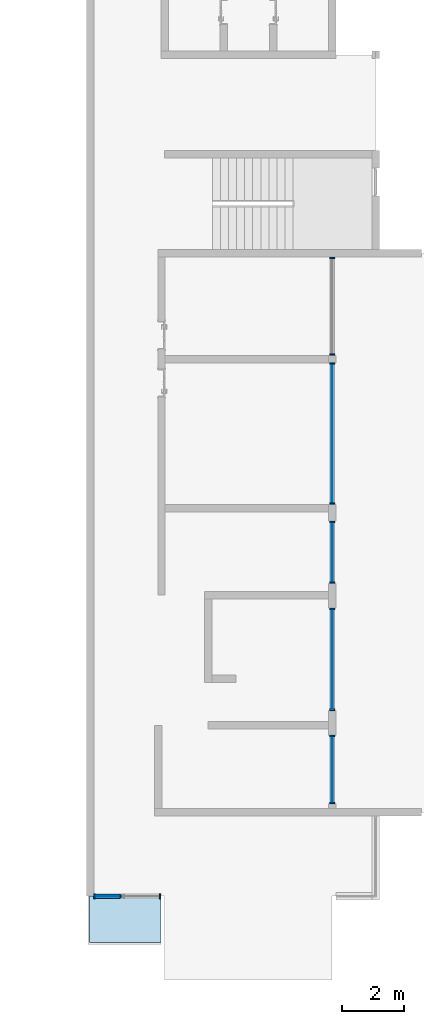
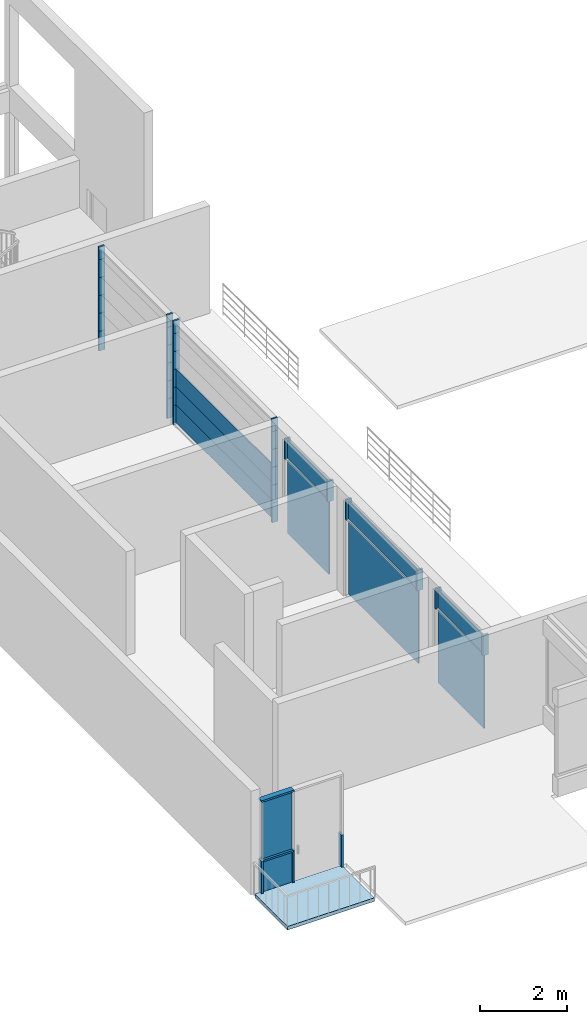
# One storey, part 3 of 16: 35 members, 11 plates, 1 slab, 6 elements without a shape of their own.
"""IFC2X3 building model written with IfcOpenShell, lengths in millimetres."""

from ifc_helpers import new_model, entity, si_unit, converted_unit, derived_unit, direction, frame, frame_2d, origin, origin_2d_with_axis, place, context, subcontext, project, spatial, rectangle, extrude, source, transform, mapped, material, layer, layer_set, layer_usage, type_object, type_shapes, element, aggregate, save


model = new_model("IFC2X3")

# Units and contexts
model_context = context("Model", 3, precision=0.01, world=origin(), true_north=direction((6.12303176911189e-17, 1.0)))
body_context = subcontext(model_context, "Body", "Model", "MODEL_VIEW")
ifc_project = project(units=[si_unit("LENGTHUNIT", "METRE", prefix="MILLI"), si_unit("AREAUNIT", "SQUARE_METRE"), si_unit("VOLUMEUNIT", "CUBIC_METRE"), converted_unit("PLANEANGLEUNIT", "DEGREE", entity("IfcRatioMeasure", 0.0174532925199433), si_unit("PLANEANGLEUNIT", "RADIAN"), dimensions=[0, 0, 0, 0, 0, 0, 0]), si_unit("MASSUNIT", "GRAM", prefix="KILO"), derived_unit("MASSDENSITYUNIT", [(si_unit("MASSUNIT", "GRAM", prefix="KILO"), 1), (si_unit("LENGTHUNIT", "METRE"), -3)]), si_unit("TIMEUNIT", "SECOND"), si_unit("FREQUENCYUNIT", "HERTZ"), si_unit("THERMODYNAMICTEMPERATUREUNIT", "DEGREE_CELSIUS"), derived_unit("THERMALTRANSMITTANCEUNIT", [(si_unit("MASSUNIT", "GRAM", prefix="KILO"), 1), (si_unit("THERMODYNAMICTEMPERATUREUNIT", "KELVIN"), -1), (si_unit("TIMEUNIT", "SECOND"), -3)]), derived_unit("VOLUMETRICFLOWRATEUNIT", [(si_unit("LENGTHUNIT", "METRE"), 3), (si_unit("TIMEUNIT", "SECOND"), -1)]), si_unit("ELECTRICCURRENTUNIT", "AMPERE"), si_unit("ELECTRICVOLTAGEUNIT", "VOLT"), si_unit("POWERUNIT", "WATT"), si_unit("FORCEUNIT", "NEWTON", prefix="KILO"), si_unit("ILLUMINANCEUNIT", "LUX"), si_unit("LUMINOUSFLUXUNIT", "LUMEN"), si_unit("LUMINOUSINTENSITYUNIT", "CANDELA"), derived_unit("USERDEFINED", [(si_unit("MASSUNIT", "GRAM", prefix="KILO"), -1), (si_unit("LENGTHUNIT", "METRE"), -2), (si_unit("TIMEUNIT", "SECOND"), 3), (si_unit("LUMINOUSFLUXUNIT", "LUMEN"), 1)]), derived_unit("LINEARVELOCITYUNIT", [(si_unit("LENGTHUNIT", "METRE"), 1), (si_unit("TIMEUNIT", "SECOND"), -1)]), si_unit("PRESSUREUNIT", "PASCAL"), derived_unit("USERDEFINED", [(si_unit("LENGTHUNIT", "METRE"), -2), (si_unit("MASSUNIT", "GRAM", prefix="KILO"), 1), (si_unit("TIMEUNIT", "SECOND"), -2)])], contexts=[model_context])

# Site, building, storey
site_placement = place(None, origin())
site = spatial("IfcSite", under=ifc_project, at=site_placement, Name="表面", CompositionType="ELEMENT")
building_placement = place(site_placement, origin())
building = spatial("IfcBuilding", under=site, at=building_placement, CompositionType="ELEMENT")
storey_placement = place(building_placement, frame((0.0, 0.0, 3000.0)))
storey = spatial("IfcBuildingStorey", under=building, at=storey_placement, Name="2F", CompositionType="ELEMENT", Elevation=3000.00000000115)

# Curtain wall, member
curtain_wall_type_1 = type_object("IfcCurtainWallType", Name="幕墙:幕墙 1", PredefinedType="NOTDEFINED")
curtain_wall_1_placement = place(storey_placement, frame((0.0, 0.0, -3000.0)))
curtain_wall_1 = element("IfcCurtainWall", 1, at=curtain_wall_1_placement, inside=storey, type_object=curtain_wall_type_1, Name="幕墙:幕墙 1", ObjectType="幕墙:幕墙 1")
ifc_material_1 = material(Name="金属 - 铝")
member_type_1 = type_object("IfcMemberType", Name="50 x 150mm", PredefinedType="MEMBER")
shared_shape_1 = source(origin(), body_context, "Body", "SweptSolid", [
    extrude(rectangle(XDim=150.0, YDim=50.0, at=origin_2d_with_axis()), frame((-25.0, 0.0, -550.0), z_axis=(0.0, 0.0, 1.0), x_axis=(0.0, -1.0, 0.0)), (0.0, 0.0, 1.0), 550.0),
])
type_shapes(member_type_1, [shared_shape_1])
member_1_placement = place(storey_placement, frame((-6630.24991264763, -11996.868426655, 0.0), z_axis=(0.0, 0.0, -1.0), x_axis=(0.0, -1.0, 0.0)))
member_1 = element("IfcMember", 2, at=member_1_placement, type_object=member_type_1, material=ifc_material_1, Name="矩形竖梃:50 x 150mm", ObjectType="50 x 150mm", context=body_context, shape_type="MappedRepresentation", body=[
    mapped(shared_shape_1, transform((0.0, 0.0, 0.0), scale=1.0)),
])

curtain_wall_2_placement = place(storey_placement, frame((0.0, 0.0, -3000.0)))
curtain_wall_2 = element("IfcCurtainWall", 3, at=curtain_wall_2_placement, inside=storey, type_object=curtain_wall_type_1, Name="幕墙:幕墙 1", ObjectType="幕墙:幕墙 1")
member_2_placement = place(storey_placement, frame((-6630.24991264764, -16796.868426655, 0.0), z_axis=(0.0, 0.0, -1.0), x_axis=(0.0, -1.0, 0.0)))
member_2 = element("IfcMember", 4, at=member_2_placement, type_object=member_type_1, material=ifc_material_1, Name="矩形竖梃:50 x 150mm", ObjectType="50 x 150mm", context=body_context, shape_type="MappedRepresentation", body=[
    mapped(shared_shape_1, transform((0.0, 0.0, 0.0), scale=1.0)),
])

# Member
member_type_2 = type_object("IfcMemberType", Name="50 x 150mm", PredefinedType="MEMBER")
shared_shape_2 = source(origin(), body_context, "Body", "SweptSolid", [
    extrude(rectangle(XDim=150.0, YDim=50.0, at=origin_2d_with_axis()), frame((-25.0, 0.0, -500.0), z_axis=(0.0, 0.0, 1.0), x_axis=(0.0, -1.0, 0.0)), (0.0, 0.0, 1.0), 500.0),
])
type_shapes(member_type_2, [shared_shape_2])
member_3_placement = place(storey_placement, frame((-6630.24991264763, -11996.868426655, 550.0), z_axis=(0.0, 0.0, -1.0), x_axis=(0.0, -1.0, 0.0)))
member_3 = element("IfcMember", 5, at=member_3_placement, type_object=member_type_2, material=ifc_material_1, Name="矩形竖梃:50 x 150mm", ObjectType="50 x 150mm", context=body_context, shape_type="MappedRepresentation", body=[
    mapped(shared_shape_2, transform((0.0, 0.0, 0.0), scale=1.0)),
])

member_4_placement = place(storey_placement, frame((-6630.24991264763, -11996.868426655, 1050.0), z_axis=(0.0, 0.0, -1.0), x_axis=(0.0, -1.0, 0.0)))
member_4 = element("IfcMember", 6, at=member_4_placement, type_object=member_type_2, material=ifc_material_1, Name="矩形竖梃:50 x 150mm", ObjectType="50 x 150mm", context=body_context, shape_type="MappedRepresentation", body=[
    mapped(shared_shape_2, transform((0.0, 0.0, 0.0), scale=1.0)),
])

member_5_placement = place(storey_placement, frame((-6630.24991264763, -11996.868426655, 1550.0), z_axis=(0.0, 0.0, -1.0), x_axis=(0.0, -1.0, 0.0)))
member_5 = element("IfcMember", 7, at=member_5_placement, type_object=member_type_2, material=ifc_material_1, Name="矩形竖梃:50 x 150mm", ObjectType="50 x 150mm", context=body_context, shape_type="MappedRepresentation", body=[
    mapped(shared_shape_2, transform((0.0, 0.0, 0.0), scale=1.0)),
])

member_6_placement = place(storey_placement, frame((-6630.24991264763, -11996.868426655, 2050.0), z_axis=(0.0, 0.0, -1.0), x_axis=(0.0, -1.0, 0.0)))
member_6 = element("IfcMember", 8, at=member_6_placement, type_object=member_type_2, material=ifc_material_1, Name="矩形竖梃:50 x 150mm", ObjectType="50 x 150mm", context=body_context, shape_type="MappedRepresentation", body=[
    mapped(shared_shape_2, transform((0.0, 0.0, 0.0), scale=1.0)),
])

member_7_placement = place(storey_placement, frame((-6630.24991264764, -16796.868426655, 550.0), z_axis=(0.0, 0.0, -1.0), x_axis=(0.0, -1.0, 0.0)))
member_7 = element("IfcMember", 9, at=member_7_placement, type_object=member_type_2, material=ifc_material_1, Name="矩形竖梃:50 x 150mm", ObjectType="50 x 150mm", context=body_context, shape_type="MappedRepresentation", body=[
    mapped(shared_shape_2, transform((0.0, 0.0, 0.0), scale=1.0)),
])

member_8_placement = place(storey_placement, frame((-6630.24991264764, -16796.868426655, 1050.0), z_axis=(0.0, 0.0, -1.0), x_axis=(0.0, -1.0, 0.0)))
member_8 = element("IfcMember", 10, at=member_8_placement, type_object=member_type_2, material=ifc_material_1, Name="矩形竖梃:50 x 150mm", ObjectType="50 x 150mm", context=body_context, shape_type="MappedRepresentation", body=[
    mapped(shared_shape_2, transform((0.0, 0.0, 0.0), scale=1.0)),
])

member_9_placement = place(storey_placement, frame((-6630.24991264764, -16796.868426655, 1550.0), z_axis=(0.0, 0.0, -1.0), x_axis=(0.0, -1.0, 0.0)))
member_9 = element("IfcMember", 11, at=member_9_placement, type_object=member_type_2, material=ifc_material_1, Name="矩形竖梃:50 x 150mm", ObjectType="50 x 150mm", context=body_context, shape_type="MappedRepresentation", body=[
    mapped(shared_shape_2, transform((0.0, 0.0, 0.0), scale=1.0)),
])

member_10_placement = place(storey_placement, frame((-6630.24991264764, -16796.868426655, 2050.0), z_axis=(0.0, 0.0, -1.0), x_axis=(0.0, -1.0, 0.0)))
member_10 = element("IfcMember", 12, at=member_10_placement, type_object=member_type_2, material=ifc_material_1, Name="矩形竖梃:50 x 150mm", ObjectType="50 x 150mm", context=body_context, shape_type="MappedRepresentation", body=[
    mapped(shared_shape_2, transform((0.0, 0.0, 0.0), scale=1.0)),
])

member_type_3 = type_object("IfcMemberType", Name="50 x 150mm", PredefinedType="MEMBER")
shared_shape_3 = source(origin(), body_context, "Body", "SweptSolid", [
    extrude(rectangle(XDim=150.0, YDim=50.0, at=origin_2d_with_axis()), frame((-25.0, 0.0, -550.0), z_axis=(0.0, 0.0, 1.0), x_axis=(0.0, -1.0, 0.0)), (0.0, 0.0, 1.0), 550.0),
])
type_shapes(member_type_3, [shared_shape_3])
member_11_placement = place(storey_placement, frame((-6630.24991264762, -8827.84591297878, 550.0), z_axis=(0.0, 0.0, 1.0), x_axis=(0.0, 1.0, 0.0)))
member_11 = element("IfcMember", 13, at=member_11_placement, type_object=member_type_3, material=ifc_material_1, Name="矩形竖梃:50 x 150mm", ObjectType="50 x 150mm", context=body_context, shape_type="MappedRepresentation", body=[
    mapped(shared_shape_3, transform((0.0, 0.0, 0.0), scale=1.0)),
])

member_12_placement = place(storey_placement, frame((-6630.24991264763, -12236.868426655, 550.0), z_axis=(0.0, 0.0, 1.0), x_axis=(0.0, 1.0, 0.0)))
member_12 = element("IfcMember", 14, at=member_12_placement, type_object=member_type_3, material=ifc_material_1, Name="矩形竖梃:50 x 150mm", ObjectType="50 x 150mm", context=body_context, shape_type="MappedRepresentation", body=[
    mapped(shared_shape_3, transform((0.0, 0.0, 0.0), scale=1.0)),
])

member_type_4 = type_object("IfcMemberType", Name="50 x 150mm", PredefinedType="MEMBER")
shared_shape_4 = source(origin(), body_context, "Body", "SweptSolid", [
    extrude(rectangle(XDim=150.0, YDim=50.0, at=origin_2d_with_axis()), frame((-25.0, 0.0, -500.0), z_axis=(0.0, 0.0, 1.0), x_axis=(0.0, -1.0, 0.0)), (0.0, 0.0, 1.0), 500.0),
])
type_shapes(member_type_4, [shared_shape_4])
member_13_placement = place(storey_placement, frame((-6630.24991264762, -8827.84591297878, 1050.0), z_axis=(0.0, 0.0, 1.0), x_axis=(0.0, 1.0, 0.0)))
member_13 = element("IfcMember", 15, at=member_13_placement, type_object=member_type_4, material=ifc_material_1, Name="矩形竖梃:50 x 150mm", ObjectType="50 x 150mm", context=body_context, shape_type="MappedRepresentation", body=[
    mapped(shared_shape_4, transform((0.0, 0.0, 0.0), scale=1.0)),
])

member_14_placement = place(storey_placement, frame((-6630.24991264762, -8827.84591297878, 1550.0), z_axis=(0.0, 0.0, 1.0), x_axis=(0.0, 1.0, 0.0)))
member_14 = element("IfcMember", 16, at=member_14_placement, type_object=member_type_4, material=ifc_material_1, Name="矩形竖梃:50 x 150mm", ObjectType="50 x 150mm", context=body_context, shape_type="MappedRepresentation", body=[
    mapped(shared_shape_4, transform((0.0, 0.0, 0.0), scale=1.0)),
])

member_15_placement = place(storey_placement, frame((-6630.24991264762, -8827.84591297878, 2050.0), z_axis=(0.0, 0.0, 1.0), x_axis=(0.0, 1.0, 0.0)))
member_15 = element("IfcMember", 17, at=member_15_placement, type_object=member_type_4, material=ifc_material_1, Name="矩形竖梃:50 x 150mm", ObjectType="50 x 150mm", context=body_context, shape_type="MappedRepresentation", body=[
    mapped(shared_shape_4, transform((0.0, 0.0, 0.0), scale=1.0)),
])

member_16_placement = place(storey_placement, frame((-6630.24991264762, -8827.84591297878, 2550.0), z_axis=(0.0, 0.0, 1.0), x_axis=(0.0, 1.0, 0.0)))
member_16 = element("IfcMember", 18, at=member_16_placement, type_object=member_type_4, material=ifc_material_1, Name="矩形竖梃:50 x 150mm", ObjectType="50 x 150mm", context=body_context, shape_type="MappedRepresentation", body=[
    mapped(shared_shape_4, transform((0.0, 0.0, 0.0), scale=1.0)),
])

member_17_placement = place(storey_placement, frame((-6630.24991264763, -12236.868426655, 1050.0), z_axis=(0.0, 0.0, 1.0), x_axis=(0.0, 1.0, 0.0)))
member_17 = element("IfcMember", 19, at=member_17_placement, type_object=member_type_4, material=ifc_material_1, Name="矩形竖梃:50 x 150mm", ObjectType="50 x 150mm", context=body_context, shape_type="MappedRepresentation", body=[
    mapped(shared_shape_4, transform((0.0, 0.0, 0.0), scale=1.0)),
])

member_18_placement = place(storey_placement, frame((-6630.24991264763, -12236.868426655, 1550.0), z_axis=(0.0, 0.0, 1.0), x_axis=(0.0, 1.0, 0.0)))
member_18 = element("IfcMember", 20, at=member_18_placement, type_object=member_type_4, material=ifc_material_1, Name="矩形竖梃:50 x 150mm", ObjectType="50 x 150mm", context=body_context, shape_type="MappedRepresentation", body=[
    mapped(shared_shape_4, transform((0.0, 0.0, 0.0), scale=1.0)),
])

member_19_placement = place(storey_placement, frame((-6630.24991264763, -12236.868426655, 2050.0), z_axis=(0.0, 0.0, 1.0), x_axis=(0.0, 1.0, 0.0)))
member_19 = element("IfcMember", 21, at=member_19_placement, type_object=member_type_4, material=ifc_material_1, Name="矩形竖梃:50 x 150mm", ObjectType="50 x 150mm", context=body_context, shape_type="MappedRepresentation", body=[
    mapped(shared_shape_4, transform((0.0, 0.0, 0.0), scale=1.0)),
])

member_20_placement = place(storey_placement, frame((-6630.24991264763, -12236.868426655, 2550.0), z_axis=(0.0, 0.0, 1.0), x_axis=(0.0, 1.0, 0.0)))
member_20 = element("IfcMember", 22, at=member_20_placement, type_object=member_type_4, material=ifc_material_1, Name="矩形竖梃:50 x 150mm", ObjectType="50 x 150mm", context=body_context, shape_type="MappedRepresentation", body=[
    mapped(shared_shape_4, transform((0.0, 0.0, 0.0), scale=1.0)),
])

member_type_5 = type_object("IfcMemberType", Name="50 x 150mm", PredefinedType="MEMBER")
shared_shape_5 = source(origin(), body_context, "Body", "SweptSolid", [
    extrude(rectangle(XDim=150.0, YDim=50.0, at=origin_2d_with_axis()), frame((-25.0, 0.0, -350.0), z_axis=(0.0, 0.0, 1.0), x_axis=(0.0, -1.0, 0.0)), (0.0, 0.0, 1.0), 349.999999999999),
])
type_shapes(member_type_5, [shared_shape_5])
member_21_placement = place(storey_placement, frame((-6630.24991264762, -8827.84591297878, 2900.0), z_axis=(0.0, 0.0, 1.0), x_axis=(0.0, 1.0, 0.0)))
member_21 = element("IfcMember", 23, at=member_21_placement, type_object=member_type_5, material=ifc_material_1, Name="矩形竖梃:50 x 150mm", ObjectType="50 x 150mm", context=body_context, shape_type="MappedRepresentation", body=[
    mapped(shared_shape_5, transform((0.0, 0.0, 0.0), scale=1.0)),
])

member_22_placement = place(storey_placement, frame((-6630.24991264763, -12236.868426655, 2900.0), z_axis=(0.0, 0.0, 1.0), x_axis=(0.0, 1.0, 0.0)))
member_22 = element("IfcMember", 24, at=member_22_placement, type_object=member_type_5, material=ifc_material_1, Name="矩形竖梃:50 x 150mm", ObjectType="50 x 150mm", context=body_context, shape_type="MappedRepresentation", body=[
    mapped(shared_shape_5, transform((0.0, 0.0, 0.0), scale=1.0)),
])

member_type_6 = type_object("IfcMemberType", Name="50 x 150mm", PredefinedType="MEMBER")
shared_shape_6 = source(origin(), body_context, "Body", "SweptSolid", [
    extrude(rectangle(XDim=150.0, YDim=50.0, at=origin_2d_with_axis()), frame((-25.0, 0.0, -350.0), z_axis=(0.0, 0.0, 1.0), x_axis=(0.0, -1.0, 0.0)), (0.0, 0.0, 1.0), 349.999999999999),
])
type_shapes(member_type_6, [shared_shape_6])
member_23_placement = place(storey_placement, frame((-6630.24991264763, -11996.868426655, 2550.0), z_axis=(0.0, 0.0, -1.0), x_axis=(0.0, -1.0, 0.0)))
member_23 = element("IfcMember", 25, at=member_23_placement, type_object=member_type_6, material=ifc_material_1, Name="矩形竖梃:50 x 150mm", ObjectType="50 x 150mm", context=body_context, shape_type="MappedRepresentation", body=[
    mapped(shared_shape_6, transform((0.0, 0.0, 0.0), scale=1.0)),
])

aggregate(curtain_wall_1, [member_1, member_21, member_3, member_11, member_13, member_14, member_15, member_16, member_4, member_5, member_6, member_23])

member_24_placement = place(storey_placement, frame((-6630.24991264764, -16796.868426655, 2550.0), z_axis=(0.0, 0.0, -1.0), x_axis=(0.0, -1.0, 0.0)))
member_24 = element("IfcMember", 26, at=member_24_placement, type_object=member_type_6, material=ifc_material_1, Name="矩形竖梃:50 x 150mm", ObjectType="50 x 150mm", context=body_context, shape_type="MappedRepresentation", body=[
    mapped(shared_shape_6, transform((0.0, 0.0, 0.0), scale=1.0)),
])

# Curtain wall, member
curtain_wall_type_2 = type_object("IfcCurtainWallType", Name="幕墙:幕墙 4", PredefinedType="NOTDEFINED")
curtain_wall_3_placement = place(storey_placement, frame((0.0, 0.0, -3000.0)))
curtain_wall_3 = element("IfcCurtainWall", 27, at=curtain_wall_3_placement, inside=storey, type_object=curtain_wall_type_2, Name="幕墙:幕墙 4", ObjectType="幕墙:幕墙 4")
member_type_7 = type_object("IfcMemberType", Name="50 x 150mm", PredefinedType="MEMBER")
shared_shape_7 = source(origin(), body_context, "Body", "SweptSolid", [
    extrude(rectangle(XDim=150.0, YDim=50.0, at=origin_2d_with_axis()), frame((-25.0, 0.0, -575.0), z_axis=(0.0, 0.0, 1.0), x_axis=(0.0, -1.0, 0.0)), (0.0, 0.0, 1.0), 575.0),
])
type_shapes(member_type_7, [shared_shape_7])
member_25_placement = place(storey_placement, frame((-6630.24991264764, -19336.868426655, 2125.0), z_axis=(0.0, 0.0, -1.0), x_axis=(0.0, -1.0, 0.0)))
member_25 = element("IfcMember", 28, at=member_25_placement, type_object=member_type_7, material=ifc_material_1, Name="矩形竖梃:50 x 150mm", ObjectType="50 x 150mm", context=body_context, shape_type="MappedRepresentation", body=[
    mapped(shared_shape_7, transform((0.0, 0.0, 0.0), scale=1.0)),
])

curtain_wall_4_placement = place(storey_placement, frame((0.0, 0.0, -3000.0)))
curtain_wall_4 = element("IfcCurtainWall", 29, at=curtain_wall_4_placement, inside=storey, type_object=curtain_wall_type_2, Name="幕墙:幕墙 4", ObjectType="幕墙:幕墙 4")
member_26_placement = place(storey_placement, frame((-6630.24991264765, -23436.868426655, 2125.0), z_axis=(0.0, 0.0, -1.0), x_axis=(0.0, -1.0, 0.0)))
member_26 = element("IfcMember", 30, at=member_26_placement, type_object=member_type_7, material=ifc_material_1, Name="矩形竖梃:50 x 150mm", ObjectType="50 x 150mm", context=body_context, shape_type="MappedRepresentation", body=[
    mapped(shared_shape_7, transform((0.0, 0.0, 0.0), scale=1.0)),
])

curtain_wall_5_placement = place(storey_placement, frame((0.0, 0.0, -3000.0)))
curtain_wall_5 = element("IfcCurtainWall", 31, at=curtain_wall_5_placement, inside=storey, type_object=curtain_wall_type_2, Name="幕墙:幕墙 4", ObjectType="幕墙:幕墙 4")
member_27_placement = place(storey_placement, frame((-6630.24991264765, -26436.868426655, 2125.0), z_axis=(0.0, 0.0, -1.0), x_axis=(0.0, -1.0, 0.0)))
member_27 = element("IfcMember", 32, at=member_27_placement, type_object=member_type_7, material=ifc_material_1, Name="矩形竖梃:50 x 150mm", ObjectType="50 x 150mm", context=body_context, shape_type="MappedRepresentation", body=[
    mapped(shared_shape_7, transform((0.0, 0.0, 0.0), scale=1.0)),
])

# Member
member_type_8 = type_object("IfcMemberType", Name="50 x 150mm", PredefinedType="MEMBER")
shared_shape_8 = source(origin(), body_context, "Body", "SweptSolid", [
    extrude(rectangle(XDim=150.0, YDim=50.0, at=origin_2d_with_axis()), frame((-25.0, 0.0, -575.0), z_axis=(0.0, 0.0, 1.0), x_axis=(0.0, -1.0, 0.0)), (0.0, 0.0, 1.0), 575.0),
])
type_shapes(member_type_8, [shared_shape_8])
member_28_placement = place(storey_placement, frame((-6630.24991264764, -17336.868426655, 2700.0), z_axis=(0.0, 0.0, 1.0), x_axis=(0.0, 1.0, 0.0)))
member_28 = element("IfcMember", 33, at=member_28_placement, type_object=member_type_8, material=ifc_material_1, Name="矩形竖梃:50 x 150mm", ObjectType="50 x 150mm", context=body_context, shape_type="MappedRepresentation", body=[
    mapped(shared_shape_8, transform((0.0, 0.0, 0.0), scale=1.0)),
])

member_29_placement = place(storey_placement, frame((-6630.24991264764, -20136.868426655, 2700.0), z_axis=(0.0, 0.0, 1.0), x_axis=(0.0, 1.0, 0.0)))
member_29 = element("IfcMember", 34, at=member_29_placement, type_object=member_type_8, material=ifc_material_1, Name="矩形竖梃:50 x 150mm", ObjectType="50 x 150mm", context=body_context, shape_type="MappedRepresentation", body=[
    mapped(shared_shape_8, transform((0.0, 0.0, 0.0), scale=1.0)),
])

member_30_placement = place(storey_placement, frame((-6630.24991264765, -24236.868426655, 2700.0), z_axis=(0.0, 0.0, 1.0), x_axis=(0.0, 1.0, 0.0)))
member_30 = element("IfcMember", 35, at=member_30_placement, type_object=member_type_8, material=ifc_material_1, Name="矩形竖梃:50 x 150mm", ObjectType="50 x 150mm", context=body_context, shape_type="MappedRepresentation", body=[
    mapped(shared_shape_8, transform((0.0, 0.0, 0.0), scale=1.0)),
])

# Curtain wall, members
curtain_wall_type_3 = type_object("IfcCurtainWallType", Name="幕墙:幕墙 2", PredefinedType="NOTDEFINED")
curtain_wall_6_placement = place(storey_placement, frame((0.0, 0.0, -3000.0)))
curtain_wall_6 = element("IfcCurtainWall", 36, at=curtain_wall_6_placement, inside=storey, type_object=curtain_wall_type_3, Name="幕墙:幕墙 2", ObjectType="幕墙:幕墙 2")
member_type_9 = type_object("IfcMemberType", Name="50 x 150mm", PredefinedType="MEMBER")
shared_shape_9 = source(origin(), body_context, "Body", "SweptSolid", [
    extrude(rectangle(XDim=150.0, YDim=50.0, at=origin_2d_with_axis()), frame((-25.0, 0.0, -900.0), z_axis=(0.0, 0.0, 1.0), x_axis=(0.0, -1.0, 0.0)), (0.0, 0.0, 1.0), 900.0),
])
type_shapes(member_type_9, [shared_shape_9])
member_31_placement = place(storey_placement, frame((-12150.2499126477, -29416.868426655, 0.0), z_axis=(0.0, 0.0, -1.0), x_axis=(1.0, 0.0, 0.0)))
member_31 = element("IfcMember", 37, at=member_31_placement, type_object=member_type_9, material=ifc_material_1, Name="矩形竖梃:50 x 150mm", ObjectType="50 x 150mm", context=body_context, shape_type="MappedRepresentation", body=[
    mapped(shared_shape_9, transform((0.0, 0.0, 0.0), scale=1.0)),
])
member_type_10 = type_object("IfcMemberType", Name="50 x 150mm", PredefinedType="MEMBER")
shared_shape_10 = source(origin(), body_context, "Body", "SweptSolid", [
    extrude(rectangle(XDim=150.0, YDim=50.0, at=origin_2d_with_axis()), frame((-25.0, 0.0, -860.0), z_axis=(0.0, 0.0, 1.0), x_axis=(0.0, -1.0, 0.0)), (0.0, 0.0, 1.0), 859.999999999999),
])
type_shapes(member_type_10, [shared_shape_10])
member_32_placement = place(storey_placement, frame((-13450.2499126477, -29416.868426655, 2600.0), z_axis=(1.0, 0.0, 0.0), x_axis=(0.0, 0.0, 1.0)))
member_32 = element("IfcMember", 38, at=member_32_placement, type_object=member_type_10, material=ifc_material_1, Name="矩形竖梃:50 x 150mm", ObjectType="50 x 150mm", context=body_context, shape_type="MappedRepresentation", body=[
    mapped(shared_shape_10, transform((0.0, 0.0, 0.0), scale=1.0)),
])
member_type_11 = type_object("IfcMemberType", Name="50 x 100mm", PredefinedType="MEMBER")
shared_shape_11 = source(origin(), body_context, "Body", "SweptSolid", [
    extrude(rectangle(XDim=100.0, YDim=50.0, at=origin_2d_with_axis()), frame((0.0, 0.0, -900.0), z_axis=(0.0, 0.0, 1.0), x_axis=(0.0, -1.0, 0.0)), (0.0, 0.0, 1.0), 900.0),
])
type_shapes(member_type_11, [shared_shape_11])
member_33_placement = place(storey_placement, frame((-13450.2499126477, -29416.868426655, 0.0), z_axis=(0.0, 0.0, -1.0), x_axis=(1.0, 0.0, 0.0)))
member_33 = element("IfcMember", 39, at=member_33_placement, type_object=member_type_11, material=ifc_material_1, Name="矩形竖梃:50 x 100mm", ObjectType="50 x 100mm", context=body_context, shape_type="MappedRepresentation", body=[
    mapped(shared_shape_11, transform((0.0, 0.0, 0.0), scale=1.0)),
])
member_type_12 = type_object("IfcMemberType", Name="50 x 150mm", PredefinedType="MEMBER")
shared_shape_12 = source(origin(), body_context, "Body", "SweptSolid", [
    extrude(rectangle(XDim=150.0, YDim=50.0, at=origin_2d_with_axis()), frame((-25.0, 0.0, -900.0), z_axis=(0.0, 0.0, 1.0), x_axis=(0.0, -1.0, 0.0)), (0.0, 0.0, 1.0), 900.0),
])
type_shapes(member_type_12, [shared_shape_12])
member_34_placement = place(storey_placement, frame((-14310.2499126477, -29416.868426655, 900.0), z_axis=(0.0, 0.0, 1.0), x_axis=(-1.0, 0.0, 0.0)))
member_34 = element("IfcMember", 40, at=member_34_placement, type_object=member_type_12, material=ifc_material_1, Name="矩形竖梃:50 x 150mm", ObjectType="50 x 150mm", context=body_context, shape_type="MappedRepresentation", body=[
    mapped(shared_shape_12, transform((0.0, 0.0, 0.0), scale=1.0)),
])
member_type_13 = type_object("IfcMemberType", Name="50 x 150mm", PredefinedType="MEMBER")
shared_shape_13 = source(origin(), body_context, "Body", "SweptSolid", [
    extrude(rectangle(XDim=150.0, YDim=50.0, at=origin_2d_with_axis()), frame((0.0, 0.0, -785.0), z_axis=(0.0, 0.0, 1.0), x_axis=(0.0, -1.0, 0.0)), (0.0, 0.0, 1.0), 784.999999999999),
])
type_shapes(member_type_13, [shared_shape_13])
member_35_placement = place(storey_placement, frame((-13475.2499126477, -29416.868426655, 900.0), z_axis=(1.0, 0.0, 0.0), x_axis=(0.0, 0.0, 1.0)))
member_35 = element("IfcMember", 41, at=member_35_placement, type_object=member_type_13, material=ifc_material_1, Name="矩形竖梃:50 x 150mm", ObjectType="50 x 150mm", context=body_context, shape_type="MappedRepresentation", body=[
    mapped(shared_shape_13, transform((0.0, 0.0, 0.0), scale=1.0)),
])

# Plate
ifc_material_2 = material(Name="<Unnamed>")
ifc_layer_1 = layer(ifc_material_2, 30.0)
ifc_layer_set_1 = layer_set([ifc_layer_1], Name="幕墙系统:1450 x 2100mm")
ifc_layer_usage_1 = layer_usage(ifc_layer_set_1, "AXIS3", "POSITIVE", 0.0)
plate_type_1 = type_object("IfcPlateType", Name="玻璃", PredefinedType="CURTAIN_PANEL", material=ifc_layer_set_1)
shared_shape_14 = source(origin(), body_context, "Body", "SweptSolid", [
    extrude(rectangle(XDim=30.0, YDim=4460.0, at=origin_2d_with_axis()), frame((0.0, 0.0, 0.0), z_axis=(0.0, 0.0, 1.0), x_axis=(0.0, 1.0, 0.0)), (0.0, 0.0, 1.0), 500.0),
])
type_shapes(plate_type_1, [shared_shape_14])
plate_1_placement = place(curtain_wall_2_placement, frame((-6630.24991264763, -14516.868426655, 3050.0), z_axis=(0.0, 0.0, 1.0), x_axis=(0.0, -1.0, 0.0)))
plate_1 = element("IfcPlate", 42, at=plate_1_placement, type_object=plate_type_1, material=ifc_layer_usage_1, Name="系统嵌板:玻璃", ObjectType="玻璃", context=body_context, shape_type="MappedRepresentation", body=[
    mapped(shared_shape_14, transform((0.0, 0.0, 0.0), scale=1.0)),
])

ifc_layer_usage_2 = layer_usage(ifc_layer_set_1, "AXIS3", "POSITIVE", 0.0)
plate_2_placement = place(curtain_wall_2_placement, frame((-6630.24991264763, -14516.868426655, 3550.0), z_axis=(0.0, 0.0, 1.0), x_axis=(0.0, -1.0, 0.0)))
plate_2 = element("IfcPlate", 43, at=plate_2_placement, type_object=plate_type_1, material=ifc_layer_usage_2, Name="系统嵌板:玻璃", ObjectType="玻璃", context=body_context, shape_type="MappedRepresentation", body=[
    mapped(shared_shape_14, transform((0.0, 0.0, 0.0), scale=1.0)),
])

ifc_layer_usage_3 = layer_usage(ifc_layer_set_1, "AXIS3", "POSITIVE", 0.0)
plate_3_placement = place(curtain_wall_2_placement, frame((-6630.24991264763, -14516.868426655, 4050.0), z_axis=(0.0, 0.0, 1.0), x_axis=(0.0, -1.0, 0.0)))
plate_3 = element("IfcPlate", 44, at=plate_3_placement, type_object=plate_type_1, material=ifc_layer_usage_3, Name="系统嵌板:玻璃", ObjectType="玻璃", context=body_context, shape_type="MappedRepresentation", body=[
    mapped(shared_shape_14, transform((0.0, 0.0, 0.0), scale=1.0)),
])

aggregate(curtain_wall_2, [plate_1, plate_2, plate_3, member_2, member_22, member_7, member_12, member_17, member_18, member_19, member_20, member_8, member_9, member_10, member_24])

ifc_layer_usage_4 = layer_usage(ifc_layer_set_1, "AXIS3", "POSITIVE", 0.0)
plate_type_2 = type_object("IfcPlateType", Name="玻璃", PredefinedType="CURTAIN_PANEL", material=ifc_layer_set_1)
shared_shape_15 = source(origin(), body_context, "Body", "SweptSolid", [
    extrude(rectangle(XDim=30.0, YDim=1900.0, at=origin_2d_with_axis()), frame((0.0, 0.0, 0.0), z_axis=(0.0, 0.0, 1.0), x_axis=(0.0, 1.0, 0.0)), (0.0, 0.0, 1.0), 2050.0),
])
type_shapes(plate_type_2, [shared_shape_15])
plate_4_placement = place(curtain_wall_3_placement, frame((-6630.24991264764, -18336.868426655, 3050.0), z_axis=(0.0, 0.0, 1.0), x_axis=(0.0, -1.0, 0.0)))
plate_4 = element("IfcPlate", 45, at=plate_4_placement, type_object=plate_type_2, material=ifc_layer_usage_4, Name="系统嵌板:玻璃", ObjectType="玻璃", context=body_context, shape_type="MappedRepresentation", body=[
    mapped(shared_shape_15, transform((0.0, 0.0, 0.0), scale=1.0)),
])

ifc_layer_usage_5 = layer_usage(ifc_layer_set_1, "AXIS3", "POSITIVE", 0.0)
plate_type_3 = type_object("IfcPlateType", Name="玻璃", PredefinedType="CURTAIN_PANEL", material=ifc_layer_set_1)
shared_shape_16 = source(origin(), body_context, "Body", "SweptSolid", [
    extrude(rectangle(XDim=30.0, YDim=1900.0, at=origin_2d_with_axis()), frame((0.0, 0.0, 0.0), z_axis=(0.0, 0.0, 1.0), x_axis=(0.0, 1.0, 0.0)), (0.0, 0.0, 1.0), 500.0),
])
type_shapes(plate_type_3, [shared_shape_16])
plate_5_placement = place(curtain_wall_3_placement, frame((-6630.24991264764, -18336.868426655, 5150.0), z_axis=(0.0, 0.0, 1.0), x_axis=(0.0, -1.0, 0.0)))
plate_5 = element("IfcPlate", 46, at=plate_5_placement, type_object=plate_type_3, material=ifc_layer_usage_5, Name="系统嵌板:玻璃", ObjectType="玻璃", context=body_context, shape_type="MappedRepresentation", body=[
    mapped(shared_shape_16, transform((0.0, 0.0, 0.0), scale=1.0)),
])

aggregate(curtain_wall_3, [plate_4, plate_5, member_25, member_28])

ifc_layer_usage_6 = layer_usage(ifc_layer_set_1, "AXIS3", "POSITIVE", 0.0)
plate_type_4 = type_object("IfcPlateType", Name="玻璃", PredefinedType="CURTAIN_PANEL", material=ifc_layer_set_1)
shared_shape_17 = source(origin(), body_context, "Body", "SweptSolid", [
    extrude(rectangle(XDim=30.0, YDim=3200.0, at=origin_2d_with_axis()), frame((0.0, 0.0, 0.0), z_axis=(0.0, 0.0, 1.0), x_axis=(0.0, 1.0, 0.0)), (0.0, 0.0, 1.0), 2050.0),
])
type_shapes(plate_type_4, [shared_shape_17])
plate_6_placement = place(curtain_wall_4_placement, frame((-6630.24991264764, -21786.868426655, 3050.0), z_axis=(0.0, 0.0, 1.0), x_axis=(0.0, -1.0, 0.0)))
plate_6 = element("IfcPlate", 47, at=plate_6_placement, type_object=plate_type_4, material=ifc_layer_usage_6, Name="系统嵌板:玻璃", ObjectType="玻璃", context=body_context, shape_type="MappedRepresentation", body=[
    mapped(shared_shape_17, transform((0.0, 0.0, 0.0), scale=1.0)),
])

ifc_layer_usage_7 = layer_usage(ifc_layer_set_1, "AXIS3", "POSITIVE", 0.0)
plate_type_5 = type_object("IfcPlateType", Name="玻璃", PredefinedType="CURTAIN_PANEL", material=ifc_layer_set_1)
shared_shape_18 = source(origin(), body_context, "Body", "SweptSolid", [
    extrude(rectangle(XDim=30.0, YDim=3200.0, at=origin_2d_with_axis()), frame((0.0, 0.0, 0.0), z_axis=(0.0, 0.0, 1.0), x_axis=(0.0, 1.0, 0.0)), (0.0, 0.0, 1.0), 500.0),
])
type_shapes(plate_type_5, [shared_shape_18])
plate_7_placement = place(curtain_wall_4_placement, frame((-6630.24991264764, -21786.868426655, 5150.0), z_axis=(0.0, 0.0, 1.0), x_axis=(0.0, -1.0, 0.0)))
plate_7 = element("IfcPlate", 48, at=plate_7_placement, type_object=plate_type_5, material=ifc_layer_usage_7, Name="系统嵌板:玻璃", ObjectType="玻璃", context=body_context, shape_type="MappedRepresentation", body=[
    mapped(shared_shape_18, transform((0.0, 0.0, 0.0), scale=1.0)),
])

aggregate(curtain_wall_4, [plate_6, plate_7, member_26, member_29])

ifc_layer_usage_8 = layer_usage(ifc_layer_set_1, "AXIS3", "POSITIVE", 0.0)
plate_type_6 = type_object("IfcPlateType", Name="玻璃", PredefinedType="CURTAIN_PANEL", material=ifc_layer_set_1)
shared_shape_19 = source(origin(), body_context, "Body", "SweptSolid", [
    extrude(rectangle(XDim=30.0, YDim=2099.99999999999, at=origin_2d_with_axis()), frame((0.0, 0.0, 0.0), z_axis=(0.0, 0.0, 1.0), x_axis=(0.0, 1.0, 0.0)), (0.0, 0.0, 1.0), 2050.0),
])
type_shapes(plate_type_6, [shared_shape_19])
plate_8_placement = place(curtain_wall_5_placement, frame((-6630.24991264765, -25336.868426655, 3050.0), z_axis=(0.0, 0.0, 1.0), x_axis=(0.0, -1.0, 0.0)))
plate_8 = element("IfcPlate", 49, at=plate_8_placement, type_object=plate_type_6, material=ifc_layer_usage_8, Name="系统嵌板:玻璃", ObjectType="玻璃", context=body_context, shape_type="MappedRepresentation", body=[
    mapped(shared_shape_19, transform((0.0, 0.0, 0.0), scale=1.0)),
])

ifc_layer_usage_9 = layer_usage(ifc_layer_set_1, "AXIS3", "POSITIVE", 0.0)
plate_type_7 = type_object("IfcPlateType", Name="玻璃", PredefinedType="CURTAIN_PANEL", material=ifc_layer_set_1)
shared_shape_20 = source(origin(), body_context, "Body", "SweptSolid", [
    extrude(rectangle(XDim=30.0, YDim=2099.99999999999, at=origin_2d_with_axis()), frame((0.0, 0.0, 0.0), z_axis=(0.0, 0.0, 1.0), x_axis=(0.0, 1.0, 0.0)), (0.0, 0.0, 1.0), 500.0),
])
type_shapes(plate_type_7, [shared_shape_20])
plate_9_placement = place(curtain_wall_5_placement, frame((-6630.24991264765, -25336.868426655, 5150.0), z_axis=(0.0, 0.0, 1.0), x_axis=(0.0, -1.0, 0.0)))
plate_9 = element("IfcPlate", 50, at=plate_9_placement, type_object=plate_type_7, material=ifc_layer_usage_9, Name="系统嵌板:玻璃", ObjectType="玻璃", context=body_context, shape_type="MappedRepresentation", body=[
    mapped(shared_shape_20, transform((0.0, 0.0, 0.0), scale=1.0)),
])

aggregate(curtain_wall_5, [plate_8, plate_9, member_27, member_30])

ifc_layer_usage_10 = layer_usage(ifc_layer_set_1, "AXIS3", "POSITIVE", 0.0)
plate_type_8 = type_object("IfcPlateType", Name="玻璃", PredefinedType="CURTAIN_PANEL", material=ifc_layer_set_1)
shared_shape_21 = source(origin(), body_context, "Body", "SweptSolid", [
    extrude(rectangle(XDim=30.0, YDim=784.999999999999, at=origin_2d_with_axis()), frame((0.0, 0.0, 0.0), z_axis=(0.0, 0.0, 1.0), x_axis=(0.0, 1.0, 0.0)), (0.0, 0.0, 1.0), 875.0),
])
type_shapes(plate_type_8, [shared_shape_21])
plate_10_placement = place(curtain_wall_6_placement, frame((-13867.7499126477, -29416.868426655, 3000.0)))
plate_10 = element("IfcPlate", 51, at=plate_10_placement, type_object=plate_type_8, material=ifc_layer_usage_10, Name="系统嵌板:玻璃", ObjectType="玻璃", context=body_context, shape_type="MappedRepresentation", body=[
    mapped(shared_shape_21, transform((0.0, 0.0, 0.0), scale=1.0)),
])

ifc_layer_usage_11 = layer_usage(ifc_layer_set_1, "AXIS3", "POSITIVE", 0.0)
plate_type_9 = type_object("IfcPlateType", Name="玻璃", PredefinedType="CURTAIN_PANEL", material=ifc_layer_set_1)
shared_shape_22 = source(origin(), body_context, "Body", "SweptSolid", [
    extrude(rectangle(XDim=30.0, YDim=784.999999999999, at=origin_2d_with_axis()), frame((0.0, 0.0, 0.0), z_axis=(0.0, 0.0, 1.0), x_axis=(0.0, 1.0, 0.0)), (0.0, 0.0, 1.0), 1625.0),
])
type_shapes(plate_type_9, [shared_shape_22])
plate_11_placement = place(curtain_wall_6_placement, frame((-13867.7499126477, -29416.868426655, 3925.0)))
plate_11 = element("IfcPlate", 52, at=plate_11_placement, type_object=plate_type_9, material=ifc_layer_usage_11, Name="系统嵌板:玻璃", ObjectType="玻璃", context=body_context, shape_type="MappedRepresentation", body=[
    mapped(shared_shape_22, transform((0.0, 0.0, 0.0), scale=1.0)),
])

aggregate(curtain_wall_6, [plate_10, plate_11, member_31, member_32, member_33, member_34, member_35])

# Slab
ifc_material_3 = material(Name="默认楼板")
ifc_layer_2 = layer(ifc_material_3, 100.0)
ifc_layer_set_2 = layer_set([ifc_layer_2], Name="楼板:常规 - 100mm")
ifc_layer_usage_12 = layer_usage(ifc_layer_set_2, "AXIS3", "POSITIVE", 0.0)
slab_placement = place(storey_placement, origin())
element("IfcSlab", 53, at=slab_placement, inside=storey, material=ifc_layer_usage_12, Name="楼板:常规 - 100mm", ObjectType="楼板:常规 - 100mm", PredefinedType="FLOOR", context=body_context, shape_type="SweptSolid", body=[
    extrude(rectangle(XDim=1500.0, YDim=2300.0, at=frame_2d((-2.1600499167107e-12, 1.13686837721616e-12), x_axis=(1.0, 0.0))), frame((-13300.2499126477, -30166.868426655, 0.0), z_axis=(0.0, 0.0, -1.0), x_axis=(0.0, 1.0, 0.0)), (0.0, 0.0, 1.0), 100.0),
])

save(model, "model.ifc")
